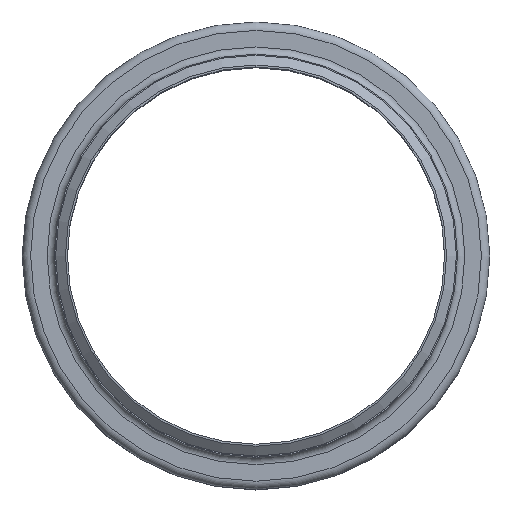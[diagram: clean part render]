
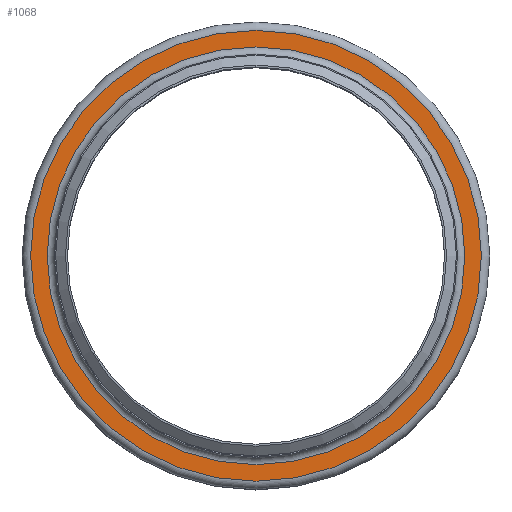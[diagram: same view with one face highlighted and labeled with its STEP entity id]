
A CAD part, top view. The second image highlights one B-rep face of the part: STEP entity #1068.
In plain terms, the highlighted planar face has unit normal (0, 0, 1).
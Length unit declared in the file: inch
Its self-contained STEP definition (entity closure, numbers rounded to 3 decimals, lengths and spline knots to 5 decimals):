
#102=FACE_BOUND('',#282,.T.);
#171=FACE_OUTER_BOUND('',#281,.T.);
#281=EDGE_LOOP('',(#824));
#282=EDGE_LOOP('',(#825));
#402=CIRCLE('',#1264,6.643);
#403=CIRCLE('',#1266,7.1695);
#491=VERTEX_POINT('',#1935);
#492=VERTEX_POINT('',#1939);
#606=EDGE_CURVE('',#491,#491,#402,.T.);
#607=EDGE_CURVE('',#492,#492,#403,.T.);
#824=ORIENTED_EDGE('',*,*,#607,.F.);
#825=ORIENTED_EDGE('',*,*,#606,.T.);
#918=PLANE('',#1265);
#1068=ADVANCED_FACE('',(#171,#102),#918,.T.);
#1264=AXIS2_PLACEMENT_3D('',#1937,#1621,#1622);
#1265=AXIS2_PLACEMENT_3D('',#1938,#1623,#1624);
#1266=AXIS2_PLACEMENT_3D('',#1940,#1625,#1626);
#1621=DIRECTION('center_axis',(0.,0.,
-1.));
#1622=DIRECTION('ref_axis',(1.,0.,0.));
#1623=DIRECTION('center_axis',(0.,0.,
1.));
#1624=DIRECTION('ref_axis',(1.,0.,0.));
#1625=DIRECTION('center_axis',(0.,0.,
-1.));
#1626=DIRECTION('ref_axis',(1.,0.,0.));
#1935=CARTESIAN_POINT('',(6.643,0.,-1.732));
#1937=CARTESIAN_POINT('Origin',(0.,0.,
-1.732));
#1938=CARTESIAN_POINT('Origin',(0.,7.1695,-1.732));
#1939=CARTESIAN_POINT('',(7.1695,0.,-1.732));
#1940=CARTESIAN_POINT('Origin',(0.,0.,
-1.732));
